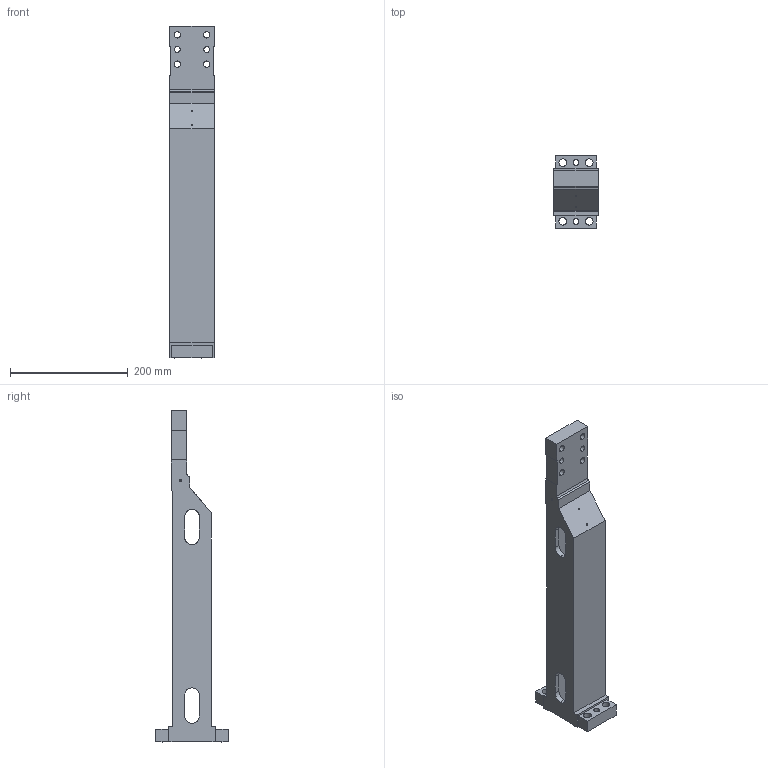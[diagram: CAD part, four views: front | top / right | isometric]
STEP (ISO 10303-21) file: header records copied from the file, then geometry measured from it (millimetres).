
FILE_DESCRIPTION (( 'STEP AP203' ), '1' );
FILE_NAME ('Clampact_KLP-EU-634-H500.STEP', '2023-07-16T13:20:46', ( '' ), ( '' ), 'SwSTEP 2.0', 'SolidWorks 2018', '' );
FILE_SCHEMA (( 'CONFIG_CONTROL_DESIGN' ));
Length unit declared in the file: millimetre
Products named in the file (1): Clampact_KLP-EU-634-H500
Bounding box: 75 x 124 x 565 mm (x, y, z)
Volume: 1191142.5 mm3; surface area: 254634.3 mm2
Topology: 1 solids, 1 shells, 413 faces, 1169 edges, 787 vertices
Faces by surface type: plane 217, bspline 142, cylinder 50, cone 4
Entity records: 21448 total; most frequent: CARTESIAN_POINT 11681, ORIENTED_EDGE 2330, DIRECTION 1384, EDGE_CURVE 1165, VERTEX_POINT 787, VECTOR 746, LINE 746, EDGE_LOOP 482
